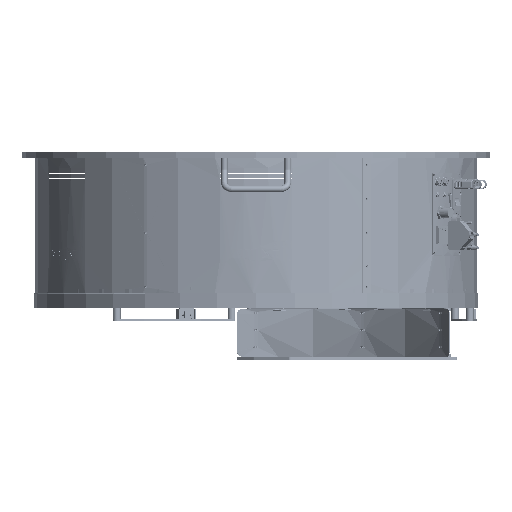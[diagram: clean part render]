
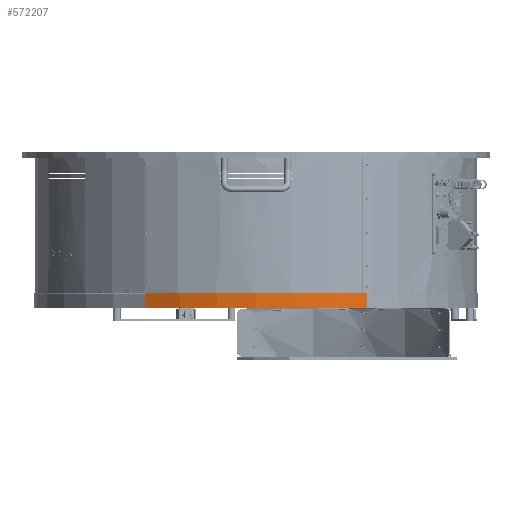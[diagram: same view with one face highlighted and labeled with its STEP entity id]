
A CAD part, front view. The second image highlights one B-rep face of the part: STEP entity #572207.
In plain terms, the highlighted cylindrical face has radius 422 mm (diameter 844 mm), a partial arc.
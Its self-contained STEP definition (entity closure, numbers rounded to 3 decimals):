
#6109 = VERTEX_POINT ( 'NONE', #389225 ) ;
#23681 = DIRECTION ( 'NONE',  ( 0., 0., -1. ) ) ;
#24709 = DIRECTION ( 'NONE',  ( 1., 0., 0. ) ) ;
#59688 = AXIS2_PLACEMENT_3D ( 'NONE', #207738, #374587, #517928 ) ;
#65695 = DIRECTION ( 'NONE',  ( 0., 0., 1. ) ) ;
#85857 = CARTESIAN_POINT ( 'NONE',  ( -211., -365.463, 29. ) ) ;
#122828 = EDGE_CURVE ( 'NONE', #321781, #178271, #360074, .T. ) ;
#127811 = ORIENTED_EDGE ( 'NONE', *, *, #122828, .T. ) ;
#133583 = EDGE_CURVE ( 'NONE', #178271, #6109, #223578, .T. ) ;
#178271 = VERTEX_POINT ( 'NONE', #625440 ) ;
#196548 = CARTESIAN_POINT ( 'NONE',  ( -422., 0., 29. ) ) ;
#203468 = AXIS2_PLACEMENT_3D ( 'NONE', #272657, #23681, #644165 ) ;
#207738 = CARTESIAN_POINT ( 'NONE',  ( 0., 0., 29. ) ) ;
#223578 = CIRCLE ( 'NONE', #452352, 422. ) ;
#224049 = CARTESIAN_POINT ( 'NONE',  ( -211., -365.463, 28. ) ) ;
#241963 = EDGE_CURVE ( 'NONE', #565698, #321781, #628304, .T. ) ;
#265598 = CYLINDRICAL_SURFACE ( 'NONE', #59688, 422. ) ;
#272657 = CARTESIAN_POINT ( 'NONE',  ( 0., 0., 28. ) ) ;
#280406 = LINE ( 'NONE', #85857, #427883 ) ;
#316706 = FACE_OUTER_BOUND ( 'NONE', #580774, .T. ) ;
#321781 = VERTEX_POINT ( 'NONE', #587520 ) ;
#344968 = DIRECTION ( 'NONE',  ( 0., 0., -1. ) ) ;
#360074 = LINE ( 'NONE', #196548, #392644 ) ;
#362348 = ORIENTED_EDGE ( 'NONE', *, *, #133583, .T. ) ;
#365508 = EDGE_CURVE ( 'NONE', #565698, #6109, #280406, .T. ) ;
#374587 = DIRECTION ( 'NONE',  ( 0., 0., -1. ) ) ;
#389225 = CARTESIAN_POINT ( 'NONE',  ( -211., -365.463, 0. ) ) ;
#392644 = VECTOR ( 'NONE', #567968, 1000. ) ;
#427883 = VECTOR ( 'NONE', #344968, 1000. ) ;
#452352 = AXIS2_PLACEMENT_3D ( 'NONE', #594034, #65695, #24709 ) ;
#517928 = DIRECTION ( 'NONE',  ( -1., 0., 0. ) ) ;
#536210 = ORIENTED_EDGE ( 'NONE', *, *, #241963, .T. ) ;
#565698 = VERTEX_POINT ( 'NONE', #224049 ) ;
#567968 = DIRECTION ( 'NONE',  ( 0., 0., -1. ) ) ;
#572207 = ADVANCED_FACE ( 'NONE', ( #316706 ), #265598, .T. ) ;
#580774 = EDGE_LOOP ( 'NONE', ( #604330, #536210, #127811, #362348 ) ) ;
#587520 = CARTESIAN_POINT ( 'NONE',  ( -422., 0., 28. ) ) ;
#594034 = CARTESIAN_POINT ( 'NONE',  ( 0., 0., 0. ) ) ;
#604330 = ORIENTED_EDGE ( 'NONE', *, *, #365508, .F. ) ;
#625440 = CARTESIAN_POINT ( 'NONE',  ( -422., 0., 0. ) ) ;
#628304 = CIRCLE ( 'NONE', #203468, 422. ) ;
#644165 = DIRECTION ( 'NONE',  ( 1., 0., 0. ) ) ;
